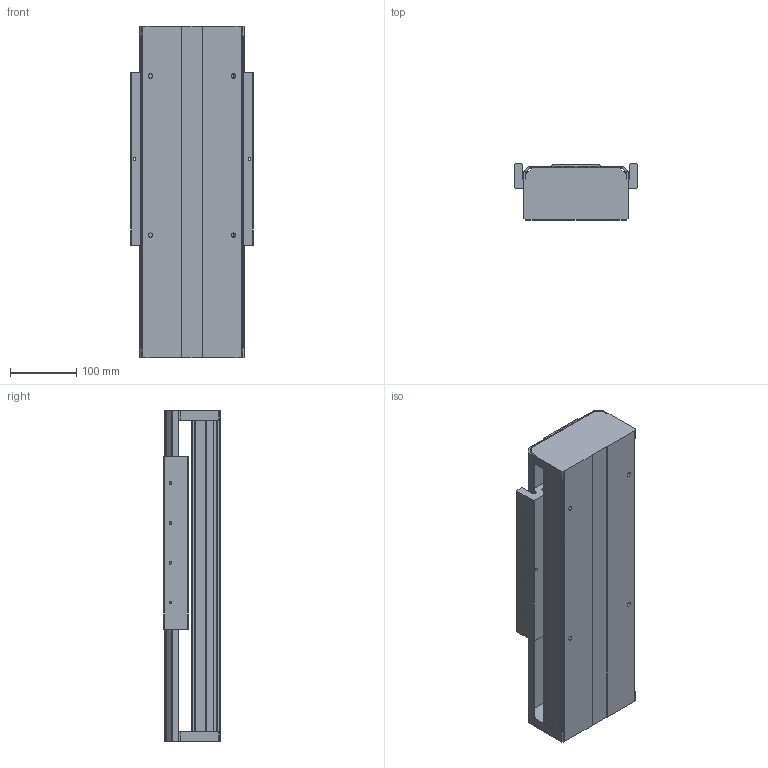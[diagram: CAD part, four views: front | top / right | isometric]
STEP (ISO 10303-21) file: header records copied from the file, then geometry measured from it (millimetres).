
FILE_DESCRIPTION (( 'STEP AP203' ), '1' );
FILE_NAME ('RF15-4-1-S.STEP', '2008-11-20T08:43:25', ( 'user' ), ( 'Robostar' ), 'SwSTEP 2.0', 'SolidWorks 2007', '' );
FILE_SCHEMA (( 'CONFIG_CONTROL_DESIGN' ));
Length unit declared in the file: millimetre
Products named in the file (1): RF15-4-1-S
Bounding box: 185 x 85 x 500 mm (x, y, z)
Volume: 2668227.6 mm3; surface area: 770659.5 mm2
Topology: 3 solids, 7 shells, 403 faces, 1145 edges, 750 vertices
Faces by surface type: plane 228, cylinder 155, cone 20
Entity records: 13386 total; most frequent: CARTESIAN_POINT 2663, ORIENTED_EDGE 2258, DIRECTION 2191, EDGE_CURVE 1129, VECTOR 795, LINE 795, VERTEX_POINT 750, AXIS2_PLACEMENT_3D 698
